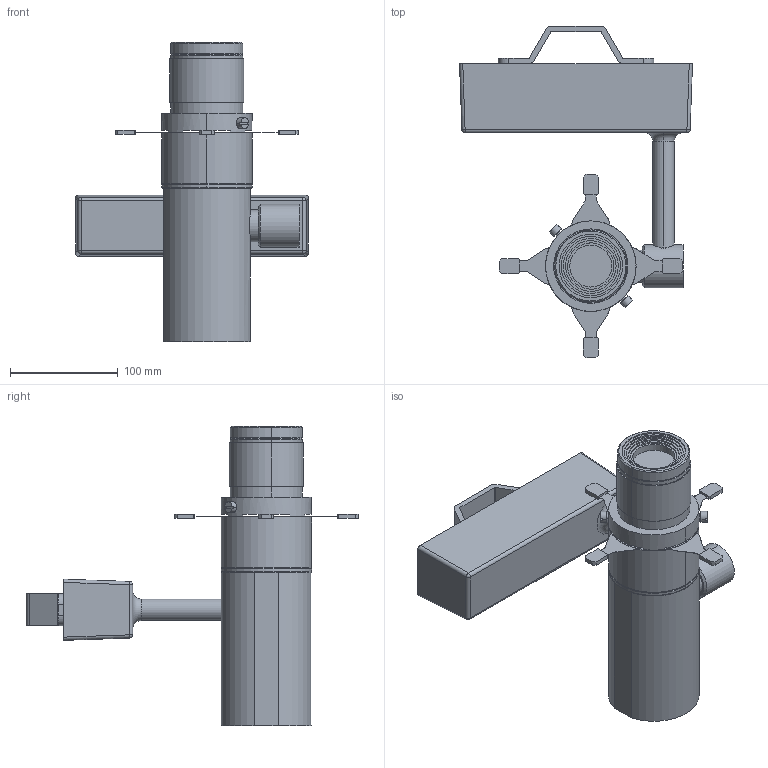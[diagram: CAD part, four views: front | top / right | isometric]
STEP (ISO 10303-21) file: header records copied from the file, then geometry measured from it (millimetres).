
FILE_DESCRIPTION (( 'STEP AP203' ), '1' );
FILE_NAME ('P1L (Clamp_Top Mount)_Hanging+50D_10-06-2026.STEP', '2026-06-11T00:13:24', ( '' ), ( '' ), 'SwSTEP 2.0', 'SolidWorks 2014', '' );
FILE_SCHEMA (( 'CONFIG_CONTROL_DESIGN' ));
Length unit declared in the file: millimetre
Products named in the file (4): Top Mount_Yoke+PSU_(Clamp); P1L (Clamp_Top Mount)_Hanging+50D_10-06-2026; P1L - Light Body; 50D_Fresnel Lens_P1L
Assembly tree (3 placements, depth 2):
  P1L (Clamp_Top Mount)_Hanging+50D_10-06-2026
    Top Mount_Yoke+PSU_(Clamp)
    P1L - Light Body
    50D_Fresnel Lens_P1L
Bounding box: 216.17 x 308.16 x 277.7 mm (x, y, z)
Volume: 2241161 mm3; surface area: 188980.5 mm2
Topology: 3 solids, 3 shells, 289 faces, 751 edges, 480 vertices
Faces by surface type: plane 170, cylinder 97, cone 16, sphere 4, torus 2
Entity records: 9445 total; most frequent: CARTESIAN_POINT 1784, DIRECTION 1559, ORIENTED_EDGE 1494, EDGE_CURVE 747, AXIS2_PLACEMENT_3D 531, VECTOR 497, LINE 497, VERTEX_POINT 480
